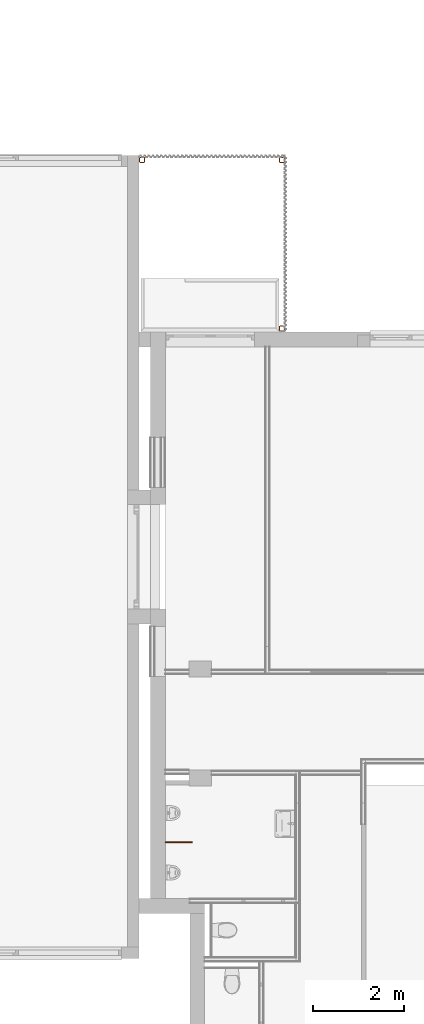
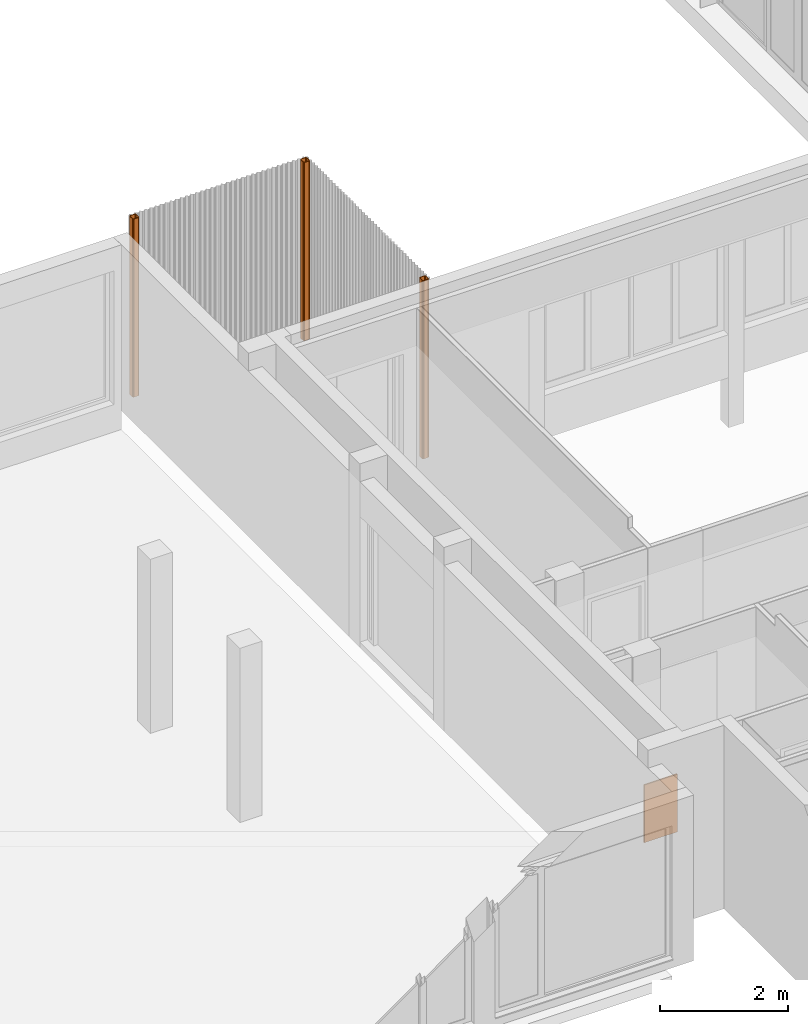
# One storey, part 83 of 99: 4 proxies.
"""IFC2X3 building model written with IfcOpenShell, lengths in millimetres."""

import ifcopenshell
import ifcopenshell.guid

model = None  # the IFC model being written
_history = None  # IfcOwnerHistory: only IFC2X3 demands one
_inside = {}  # id of a spatial element -> (the spatial element, [elements in it])
_under = {}  # id of a project, library or spatial element -> (it, [spatial elements below it])
_declared = {}  # id of a project -> (the project, [libraries it declares])
_typed = {}  # id of a type object -> (the type object, [elements of that type])
_made_of = {}  # id of a material, layer set ... -> (it, [elements and type objects made of it])


def new_model(schema):
    """Start an empty IFC model of exactly this schema.

    Asked for "IFC4X3", IfcOpenShell would pick the latest addendum, in which some entities
    have other attributes; the version numbers below select the first issue.
    IFC2X3 requires an IfcOwnerHistory on every rooted entity: one is made here for all.
    """
    global model, _history
    if schema == "IFC4X3":
        model = ifcopenshell.file(schema_version=(4, 3, 0, 0))
    else:
        model = ifcopenshell.file(schema=schema)
    _inside.clear()
    _under.clear()
    _declared.clear()
    _typed.clear()
    _made_of.clear()
    _history = None
    if model.schema == "IFC2X3":
        org = make("IfcOrganization", Name="unknown")
        user = make(
            "IfcPersonAndOrganization",
            ThePerson=make("IfcPerson", FamilyName="unknown"),
            TheOrganization=org,
        )
        app = make(
            "IfcApplication",
            ApplicationDeveloper=org,
            Version="unknown",
            ApplicationFullName="unknown",
            ApplicationIdentifier="unknown",
        )
        _history = make(
            "IfcOwnerHistory",
            OwningUser=user,
            OwningApplication=app,
            ChangeAction="ADDED",
            CreationDate=0,
        )
    return model


def make(cls, **values):
    """One entity of the class cls with the attributes given. An attribute that is None is left unset."""
    return model.create_entity(
        cls, **{name: value for name, value in values.items() if value is not None}
    )


def entity(cls, *values):
    """Any entity or typed value of the class cls, its attributes in the order of the schema. None: left unset."""
    e = model.create_entity(cls)
    for i, value in enumerate(values):
        if value is not None:
            e[i] = value
    return e


def rooted(cls, **values):
    """An entity with a GlobalId (a new one), such as an element, a storey or a relation."""
    return make(cls, GlobalId=ifcopenshell.guid.new(), OwnerHistory=_history, **values)


def si_unit(unit_type, name, prefix=None):
    """IfcSIUnit, for example si_unit("LENGTHUNIT", "METRE", prefix="MILLI")."""
    return make("IfcSIUnit", UnitType=unit_type, Prefix=prefix, Name=name)


def converted_unit(unit_type, name, factor, base, dimensions=None, offset=None):
    """IfcConversionBasedUnit, such as the inch: factor (a typed value) times the base unit."""
    return make(
        "IfcConversionBasedUnit"
        if offset is None
        else "IfcConversionBasedUnitWithOffset",
        ConversionOffset=offset,
        Dimensions=None
        if dimensions is None
        else entity("IfcDimensionalExponents", *dimensions),
        UnitType=unit_type,
        Name=name,
        ConversionFactor=make(
            "IfcMeasureWithUnit", ValueComponent=factor, UnitComponent=base
        ),
    )


def derived_unit(unit_type, elements):
    """IfcDerivedUnit: a product of units, each with its exponent."""
    return make(
        "IfcDerivedUnit",
        Elements=[
            make("IfcDerivedUnitElement", Unit=unit, Exponent=power)
            for unit, power in elements
        ],
        UnitType=unit_type,
    )


def money_unit(currency):
    """IfcMonetaryUnit."""
    return make("IfcMonetaryUnit", Currency=currency)


def assignment(units):
    """IfcUnitAssignment: the units of a project."""
    return None if units is None else make("IfcUnitAssignment", Units=units)


def point(xyz):
    """IfcCartesianPoint."""
    return None if xyz is None else make("IfcCartesianPoint", Coordinates=xyz)


def direction(xyz):
    """IfcDirection."""
    return None if xyz is None else make("IfcDirection", DirectionRatios=xyz)


def frame(location, z_axis=None, x_axis=None):
    """IfcAxis2Placement3D, a coordinate frame: its origin and axes. An axis left out is left unset."""
    return make(
        "IfcAxis2Placement3D",
        Location=point(location),
        Axis=direction(z_axis),
        RefDirection=direction(x_axis),
    )


def origin_with_axes():
    """The frame at (0, 0, 0) with the z axis (0, 0, 1) and the x axis (1, 0, 0) written out."""
    return frame((0.0, 0.0, 0.0), z_axis=(0.0, 0.0, 1.0), x_axis=(1.0, 0.0, 0.0))


def place(relative_to, where):
    """IfcLocalPlacement: puts the frame where relative to a parent placement (None: the world)."""
    return make(
        "IfcLocalPlacement", PlacementRelTo=relative_to, RelativePlacement=where
    )


def context(
    kind, dimensions, precision=None, world=None, true_north=None, identifier=None
):
    """IfcGeometricRepresentationContext, for example the 3D "Model" context."""
    return make(
        "IfcGeometricRepresentationContext",
        ContextIdentifier=identifier,
        ContextType=kind,
        CoordinateSpaceDimension=dimensions,
        Precision=precision,
        WorldCoordinateSystem=world,
        TrueNorth=true_north,
    )


def subcontext(parent, identifier, kind, view, scale=None):
    """IfcGeometricRepresentationSubContext, for example "Body" below "Model"."""
    return make(
        "IfcGeometricRepresentationSubContext",
        ContextIdentifier=identifier,
        ContextType=kind,
        ParentContext=parent,
        TargetScale=scale,
        TargetView=view,
    )


def project(units=None, contexts=None):
    """IfcProject with its units and contexts."""
    return rooted(
        "IfcProject",
        Name="project",
        RepresentationContexts=contexts,
        UnitsInContext=assignment(units),
    )


def spatial(cls, under=None, at=None, **own):
    """A site, building, storey or space (cls), placed at a placement, below another one or the project."""
    s = rooted(cls, ObjectPlacement=at, **own)
    if under is not None:
        _under.setdefault(under.id(), (under, []))[1].append(s)
    return s


def faces_of(points, faces, orient=None, outer=None):
    """IfcFace entities. A face is a list of loops; a loop is a list of indices into points, from 0.

    orient and outer hold one flag for each loop. By default every Orientation is true, the
    first loop of a face is its IfcFaceOuterBound and the others are IfcFaceBound.
    """
    made = []
    for i, loops in enumerate(faces):
        bounds = []
        for j, loop in enumerate(loops):
            is_outer = j == 0 if outer is None else outer[i][j]
            bounds.append(
                make(
                    "IfcFaceOuterBound" if is_outer else "IfcFaceBound",
                    Bound=make("IfcPolyLoop", Polygon=[points[k] for k in loop]),
                    Orientation=True if orient is None else orient[i][j],
                )
            )
        made.append(make("IfcFace", Bounds=bounds))
    return made


def faceted_brep(points, faces, orient=None, outer=None, voids=None):
    """IfcFacetedBrep: a solid bounded by flat faces; with voids (closed shells), ...WithVoids."""
    shared = [point(p) for p in points]
    hull = make("IfcClosedShell", CfsFaces=faces_of(shared, faces, orient, outer))
    if voids is None:
        return make("IfcFacetedBrep", Outer=hull)
    return make(
        "IfcFacetedBrepWithVoids",
        Outer=hull,
        Voids=[
            make(cls, CfsFaces=faces_of(shared, fs, o, b)) for cls, fs, o, b in voids
        ],
    )


def shape(context_of_items, identifier, shape_type, items):
    """IfcShapeRepresentation: the items that make up one representation, for example the "Body"."""
    return make(
        "IfcShapeRepresentation",
        ContextOfItems=context_of_items,
        RepresentationIdentifier=identifier,
        RepresentationType=shape_type,
        Items=items,
    )


def source(mapping_origin, context_of_items, identifier, shape_type, items):
    """IfcRepresentationMap: a shape defined once, which mapped items show again and again."""
    return make(
        "IfcRepresentationMap",
        MappingOrigin=mapping_origin,
        MappedRepresentation=shape(context_of_items, identifier, shape_type, items),
    )


def transform(
    local_origin,
    x_axis=None,
    y_axis=None,
    z_axis=None,
    scale=None,
    scale2=None,
    scale3=None,
    uniform=True,
):
    """IfcCartesianTransformationOperator3D, or its non-uniform kind. x_axis, y_axis, z_axis: its Axis1, 2, 3."""
    if uniform:
        return make(
            "IfcCartesianTransformationOperator3D",
            Axis1=direction(x_axis),
            Axis2=direction(y_axis),
            LocalOrigin=point(local_origin),
            Scale=scale,
            Axis3=direction(z_axis),
        )
    return make(
        "IfcCartesianTransformationOperator3DnonUniform",
        Axis1=direction(x_axis),
        Axis2=direction(y_axis),
        LocalOrigin=point(local_origin),
        Scale=scale,
        Axis3=direction(z_axis),
        Scale2=scale2,
        Scale3=scale3,
    )


def mapped(mapping_source, mapping_target):
    """IfcMappedItem: shows the shape of a source again, moved by a transform."""
    return make(
        "IfcMappedItem", MappingSource=mapping_source, MappingTarget=mapping_target
    )


def material(Name=None, Category=None):
    """IfcMaterial."""
    return make("IfcMaterial", Name=Name, Category=Category)


def made_of(thing, what):
    """Note that an element or type object is made of a material, layer set ...; save() writes the relation."""
    if what is not None:
        _made_of.setdefault(what.id(), (what, []))[1].append(thing)
    return thing


def type_object(cls, material=None, **own):
    """A type object (cls), such as IfcWallType, which elements share."""
    return made_of(rooted(cls, **own), material)


def type_shapes(of_type, sources):
    """Give a type object the sources (RepresentationMaps) that its elements show as mapped items."""
    of_type.RepresentationMaps = sources


def element(
    cls,
    number,
    at=None,
    inside=None,
    cuts=None,
    type_object=None,
    material=None,
    context=None,
    identifier="Body",
    shape_type=None,
    held_by="IfcProductDefinitionShape",
    body=None,
    shapes=None,
    **own,
):
    """One element of the class cls, such as IfcWall. Its Tag is "e" and its number.

    at: its placement. inside: the storey or other place that contains it. cuts: it is an
    opening in that element (IfcRelVoidsElement). A single representation is given by context,
    identifier, shape_type and body (its items); several are given by shapes. held_by: the class
    of the entity that holds the representations. save() writes the other relations.
    """
    e = rooted(cls, Tag="e%d" % number, ObjectPlacement=at, **own)
    if body is not None:
        shapes = [shape(context, identifier, shape_type, body)]
    if shapes is not None:
        e.Representation = make(held_by, Representations=shapes)
    if inside is not None:
        _inside.setdefault(inside.id(), (inside, []))[1].append(e)
    if cuts is not None:
        rooted(
            "IfcRelVoidsElement", RelatingBuildingElement=cuts, RelatedOpeningElement=e
        )
    if type_object is not None:
        _typed.setdefault(type_object.id(), (type_object, []))[1].append(e)
    return made_of(e, material)


def aggregate(whole, parts):
    """IfcRelAggregates: a whole, such as a stair, and the parts it consists of."""
    return rooted("IfcRelAggregates", RelatingObject=whole, RelatedObjects=parts)


def save(model, path):
    """Write the relations noted so far, then the file.

    IfcRelAggregates (storeys below a building ...), IfcRelContainedInSpatialStructure (elements
    in a storey), IfcRelDefinesByType, IfcRelAssociatesMaterial and IfcRelDeclares: one each for
    every whole, place, type object, material and project.
    """
    for whole, parts in _under.values():
        aggregate(whole, parts)
    for where, things in _inside.values():
        rooted(
            "IfcRelContainedInSpatialStructure",
            RelatedElements=things,
            RelatingStructure=where,
        )
    for kind, things in _typed.values():
        rooted("IfcRelDefinesByType", RelatedObjects=things, RelatingType=kind)
    for what, things in _made_of.values():
        rooted("IfcRelAssociatesMaterial", RelatedObjects=things, RelatingMaterial=what)
    for by, libraries in _declared.values():
        rooted("IfcRelDeclares", RelatingContext=by, RelatedDefinitions=libraries)
    model.write(path)


model = new_model("IFC2X3")

# Units and contexts
model_context = context("Model", 3, precision=0.01, world=origin_with_axes(), true_north=direction((0.0, 1.0)))
body_context = subcontext(model_context, "Body", "Model", "MODEL_VIEW")
ifc_project = project(units=[si_unit("LENGTHUNIT", "METRE", prefix="MILLI"), si_unit("AREAUNIT", "SQUARE_METRE"), si_unit("VOLUMEUNIT", "CUBIC_METRE"), converted_unit("PLANEANGLEUNIT", "DEGREE", entity("IfcPlaneAngleMeasure", 0.0174532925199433), si_unit("PLANEANGLEUNIT", "RADIAN"), dimensions=[0, 0, 0, 0, 0, 0, 0]), money_unit("EUR"), converted_unit("TIMEUNIT", "Year", entity("IfcTimeMeasure", 31557600.0), si_unit("TIMEUNIT", "SECOND"), dimensions=[0, 0, 1, 0, 0, 0, 0]), si_unit("MASSUNIT", "GRAM", prefix="KILO"), si_unit("THERMODYNAMICTEMPERATUREUNIT", "DEGREE_CELSIUS"), si_unit("LUMINOUSINTENSITYUNIT", "LUMEN"), si_unit("ENERGYUNIT", "JOULE", prefix="MEGA"), derived_unit("THERMALCONDUCTANCEUNIT", [(si_unit("POWERUNIT", "WATT"), 1), (si_unit("LENGTHUNIT", "METRE"), -1), (si_unit("THERMODYNAMICTEMPERATUREUNIT", "KELVIN"), -1)]), derived_unit("SPECIFICHEATCAPACITYUNIT", [(si_unit("ENERGYUNIT", "JOULE"), 1), (si_unit("MASSUNIT", "GRAM", prefix="KILO"), -1), (si_unit("THERMODYNAMICTEMPERATUREUNIT", "KELVIN"), -1)]), derived_unit("MASSDENSITYUNIT", [(si_unit("MASSUNIT", "GRAM", prefix="KILO"), 1), (si_unit("VOLUMEUNIT", "CUBIC_METRE"), -1)])], contexts=[model_context])

# Site, building, storey
site_placement = place(None, origin_with_axes())
site = spatial("IfcSite", under=ifc_project, at=site_placement, Name="Site", CompositionType="ELEMENT")
building_placement = place(site_placement, origin_with_axes())
building = spatial("IfcBuilding", under=site, at=building_placement, Name="Naam gebouw", CompositionType="ELEMENT")
storey_placement = place(building_placement, frame((0.0, 0.0, 7650.0), z_axis=(0.0, 0.0, 1.0), x_axis=(1.0, 0.0, 0.0)))
storey = spatial("IfcBuildingStorey", under=building, at=storey_placement, Name="2e verdieping N", CompositionType="ELEMENT", Elevation=7650.0)

# Proxies
building_element_proxy_type_1 = type_object("IfcBuildingElementProxyType", Name="Scheidingwanden 27", PredefinedType="NOTDEFINED")
shared_shape_1 = source(origin_with_axes(), body_context, "Body", "Brep", [
    faceted_brep([(0.0, 0.0, 400.0), (600.0, 0.0, 400.0), (600.0, 0.0, 1500.0), (0.0, 0.0, 1500.0), (0.0, 25.0, 400.0), (600.0, 25.0, 400.0), (600.0, 25.0, 1500.0), (0.0, 25.0, 1500.0)], [[[0, 1, 2, 3]], [[0, 4, 5, 1]], [[1, 5, 6, 2]], [[3, 2, 6, 7]], [[4, 0, 3, 7]], [[5, 4, 7, 6]]]),
])
type_shapes(building_element_proxy_type_1, [shared_shape_1])
proxy_placement = place(storey_placement, frame((-770.0761052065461, 9064.214553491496, 0.0), z_axis=(0.0, 0.0, 1.0), x_axis=(1.0, 0.0, 0.0)))
element("IfcBuildingElementProxy", 1, at=proxy_placement, inside=storey, type_object=building_element_proxy_type_1, Name="_Sanitair-x", context=body_context, shape_type="MappedRepresentation", body=[
    mapped(shared_shape_1, transform((0.0, 0.0, 0.0))),
])
ifc_material = material(Name="Metaal - Staal AFW")
building_element_proxy_type_2 = type_object("IfcBuildingElementProxyType", Name="Buis vk koudgev kolom 26", PredefinedType="NOTDEFINED")
shared_shape_2 = source(origin_with_axes(), body_context, "Body", "Brep", [
    faceted_brep([(39.99999999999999, -60.0, 0.0), (39.99999999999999, -60.0, 3400.000000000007), (-39.99999999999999, -60.0, 3400.000000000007), (-39.99999999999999, -60.0, 0.0), (54.14213562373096, -54.14213562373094, 0.0), (54.14213562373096, -54.14213562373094, 3400.000000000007), (60.0, -39.99999999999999, 3400.000000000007), (60.0, 39.99999999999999, 3400.000000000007), (54.14213562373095, 54.14213562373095, 3400.000000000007), (39.99999999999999, 60.0, 3400.000000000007), (-39.99999999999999, 60.0, 3400.000000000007), (-54.14213562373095, 54.14213562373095, 3400.000000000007), (-60.0, 39.99999999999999, 3400.000000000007), (-60.0, -39.99999999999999, 3400.000000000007), (-54.14213562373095, -54.14213562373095, 3400.000000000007), (40.0, -49.99999999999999, 3400.000000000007), (-39.99999999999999, -49.99999999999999, 3400.000000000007), (-47.07106781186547, -47.07106781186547, 3400.000000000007), (-49.99999999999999, -40.0, 3400.000000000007), (-49.99999999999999, 39.99999999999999, 3400.000000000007), (-47.07106781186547, 47.07106781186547, 3400.000000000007), (-40.0, 49.99999999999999, 3400.000000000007), (39.99999999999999, 49.99999999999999, 3400.000000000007), (47.07106781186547, 47.07106781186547, 3400.000000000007), (49.99999999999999, 40.0, 3400.000000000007), (49.99999999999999, -39.99999999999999, 3400.000000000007), (47.07106781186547, -47.07106781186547, 3400.000000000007), (-54.14213562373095, -54.14213562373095, 0.0), (-60.0, -39.99999999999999, 0.0), (-60.0, 39.99999999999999, 0.0), (-54.14213562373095, 54.14213562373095, 0.0), (-39.99999999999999, 60.0, 0.0), (39.99999999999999, 60.0, 0.0), (54.14213562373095, 54.14213562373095, 0.0), (60.0, 39.99999999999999, 0.0), (60.0, -39.99999999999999, 0.0), (40.0, -49.99999999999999, 0.0), (47.07106781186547, -47.07106781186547, 0.0), (49.99999999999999, -39.99999999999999, 0.0), (49.99999999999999, 40.0, 0.0), (47.07106781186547, 47.07106781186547, 0.0), (39.99999999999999, 49.99999999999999, 0.0), (-40.0, 49.99999999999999, 0.0), (-47.07106781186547, 47.07106781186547, 0.0), (-49.99999999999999, 39.99999999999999, 0.0), (-49.99999999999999, -40.0, 0.0), (-47.07106781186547, -47.07106781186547, 0.0), (-39.99999999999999, -49.99999999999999, 0.0)], [[[0, 1, 2, 3]], [[4, 5, 1, 0]], [[1, 5, 6, 7, 8, 9, 10, 11, 12, 13, 14, 2], [15, 16, 17, 18, 19, 20, 21, 22, 23, 24, 25, 26]], [[3, 2, 14, 27]], [[0, 3, 27, 28, 29, 30, 31, 32, 33, 34, 35, 4], [36, 37, 38, 39, 40, 41, 42, 43, 44, 45, 46, 47]], [[35, 6, 5, 4]], [[34, 7, 6, 35]], [[33, 8, 7, 34]], [[32, 9, 8, 33]], [[31, 10, 9, 32]], [[30, 11, 10, 31]], [[29, 12, 11, 30]], [[28, 13, 12, 29]], [[27, 14, 13, 28]], [[47, 16, 15, 36]], [[46, 17, 16, 47]], [[45, 18, 17, 46]], [[44, 19, 18, 45]], [[43, 20, 19, 44]], [[42, 21, 20, 43]], [[41, 22, 21, 42]], [[40, 23, 22, 41]], [[39, 24, 23, 40]], [[38, 25, 24, 39]], [[37, 26, 25, 38]], [[36, 15, 26, 37]]]),
])
type_shapes(building_element_proxy_type_2, [shared_shape_2])
for number, where, z_axis, x_axis, name in (
    (2, (1799.999999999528, 24115.82979156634, 0.0), (0.0, 0.0, 1.0), (-1.0, 0.0, 0.0), "_Boom-x"),
    (3, (1799.999999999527, 20395.82979156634, 0.0), (0.0, 0.0, 1.0), (-1.0, 0.0, 0.0), "_Boom-x"),
    (4, (-1280.000000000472, 24115.82979156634, 0.0), (0.0, 0.0, 1.0), (-1.0, 0.0, 0.0), "_Boom-x"),
):
    element("IfcBuildingElementProxy", number, at=place(storey_placement, frame(where, z_axis=z_axis, x_axis=x_axis)), inside=storey, type_object=building_element_proxy_type_2, material=ifc_material, Name=name, context=body_context, shape_type="MappedRepresentation", body=[
        mapped(shared_shape_2, transform((0.0, 0.0, 0.0))),
    ])

save(model, "model.ifc")
